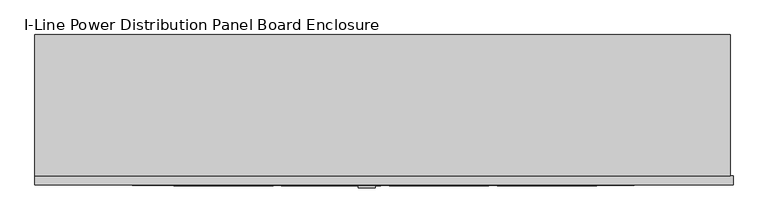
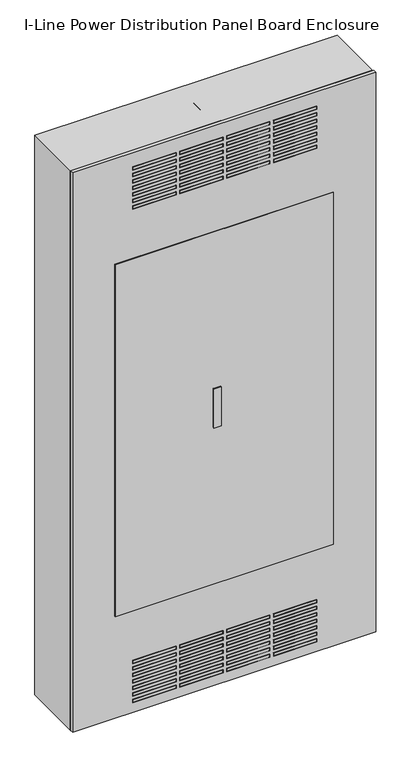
"""IFC4 building model written with IfcOpenShell, lengths in millimetres: proxy geometry, I-Line_Power_Distribution_Panel_Board_Enclosure_MDP-100_Config10_BIM_Model : I-Line Power Distribution Panel Board Enclosure."""

from ifc_helpers import new_model, si_unit, frame, origin, origin_with_axes, place, context, project, spatial, polyline, outline, extrude, source, transform, mapped, element, save


def i_line_power_distribution_panel_board_enclosure_5f4e2905(model_context):
    return source(origin(), model_context, "Body", "SweptSolid", [
        extrude(outline(polyline([(-559.0, 120.5), (556.5776372, 120.5), (556.5776372, -106.0), (-559.0, -106.0), (-559.0, 120.5)])), origin_with_axes(), (0.0, 0.0, 1.0), 2184.0),
        extrude(outline(polyline([(-13.504808, -125.5390217), (-40.1142303, -125.5390217), (-40.1142303, -120.5), (-13.504808, -120.5), (-13.504808, -125.5390217)])), frame((0.0, 0.0, 1008.4914951), z_axis=(0.0, 0.0, 1.0), x_axis=(1.0, 0.0, 0.0)), (0.0, 0.0, 1.0), 152.4),
        extrude(outline(polyline([(51.0438411, -176.9157639), (51.0438411, -336.572879), (38.3438396, -336.572879), (38.3438396, -176.9157639), (51.0438411, -176.9157639)]), holes=[polyline([(50.0438411, -177.9157639), (39.3438396, -177.9157639), (39.3438396, -335.572879), (50.0438411, -335.572879), (50.0438411, -177.9157639)])]), frame((0.0, -121.5073617, 0.0), z_axis=(0.0, 1.0, 0.0), x_axis=(0.0, 0.0, 1.0)), (0.0, 0.0, 1.0), 1.0073617),
        extrude(outline(polyline([(76.443835, -176.9157639), (76.443835, -336.572879), (63.7438335, -336.572879), (63.7438335, -176.9157639), (76.443835, -176.9157639)]), holes=[polyline([(75.443835, -177.9157639), (64.7438335, -177.9157639), (64.7438335, -335.572879), (75.443835, -335.572879), (75.443835, -177.9157639)])]), frame((0.0, -121.5073617, 0.0), z_axis=(0.0, 1.0, 0.0), x_axis=(0.0, 0.0, 1.0)), (0.0, 0.0, 1.0), 1.0073617),
        extrude(outline(polyline([(101.8438381, -176.9157639), (101.8438381, -336.572879), (89.1438366, -336.572879), (89.1438366, -176.9157639), (101.8438381, -176.9157639)]), holes=[polyline([(100.8438381, -177.9157639), (90.1438366, -177.9157639), (90.1438366, -335.572879), (100.8438381, -335.572879), (100.8438381, -177.9157639)])]), frame((0.0, -121.5073617, 0.0), z_axis=(0.0, 1.0, 0.0), x_axis=(0.0, 0.0, 1.0)), (0.0, 0.0, 1.0), 1.0073617),
        extrude(outline(polyline([(127.243832, -176.9157639), (127.243832, -336.572879), (114.5438305, -336.572879), (114.5438305, -176.9157639), (127.243832, -176.9157639)]), holes=[polyline([(126.243832, -177.9157639), (115.5438305, -177.9157639), (115.5438305, -335.572879), (126.243832, -335.572879), (126.243832, -177.9157639)])]), frame((0.0, -121.5073617, 0.0), z_axis=(0.0, 1.0, 0.0), x_axis=(0.0, 0.0, 1.0)), (0.0, 0.0, 1.0), 1.0073617),
        extrude(outline(polyline([(152.643835, -176.9157639), (152.643835, -336.572879), (139.9438335, -336.572879), (139.9438335, -176.9157639), (152.643835, -176.9157639)]), holes=[polyline([(151.643835, -177.9157639), (140.9438335, -177.9157639), (140.9438335, -335.572879), (151.643835, -335.572879), (151.643835, -177.9157639)])]), frame((0.0, -121.5073617, 0.0), z_axis=(0.0, 1.0, 0.0), x_axis=(0.0, 0.0, 1.0)), (0.0, 0.0, 1.0), 1.0073617),
        extrude(outline(polyline([(178.043829, -176.9157639), (178.043829, -336.572879), (165.3438275, -336.572879), (165.3438275, -176.9157639), (178.043829, -176.9157639)]), holes=[polyline([(177.043829, -177.9157639), (166.3438275, -177.9157639), (166.3438275, -335.572879), (177.043829, -335.572879), (177.043829, -177.9157639)])]), frame((0.0, -121.5073617, 0.0), z_axis=(0.0, 1.0, 0.0), x_axis=(0.0, 0.0, 1.0)), (0.0, 0.0, 1.0), 1.0073617),
        extrude(outline(polyline([(203.443832, -176.9157639), (203.443832, -336.572879), (190.7438305, -336.572879), (190.7438305, -176.9157639), (203.443832, -176.9157639)]), holes=[polyline([(202.443832, -177.9157639), (191.7438305, -177.9157639), (191.7438305, -335.572879), (202.443832, -335.572879), (202.443832, -177.9157639)])]), frame((0.0, -121.5073617, 0.0), z_axis=(0.0, 1.0, 0.0), x_axis=(0.0, 0.0, 1.0)), (0.0, 0.0, 1.0), 1.0073617),
        extrude(outline(polyline([(51.0438411, -3.9539375), (51.0438411, -163.6110527), (38.3438396, -163.6110527), (38.3438396, -3.9539375), (51.0438411, -3.9539375)]), holes=[polyline([(50.0438411, -4.9539375), (39.3438396, -4.9539375), (39.3438396, -162.6110527), (50.0438411, -162.6110527), (50.0438411, -4.9539375)])]), frame((0.0, -121.5073617, 0.0), z_axis=(0.0, 1.0, 0.0), x_axis=(0.0, 0.0, 1.0)), (0.0, 0.0, 1.0), 1.0073617),
        extrude(outline(polyline([(76.443835, -3.9539375), (76.443835, -163.6110527), (63.7438335, -163.6110527), (63.7438335, -3.9539375), (76.443835, -3.9539375)]), holes=[polyline([(75.443835, -4.9539375), (64.7438335, -4.9539375), (64.7438335, -162.6110527), (75.443835, -162.6110527), (75.443835, -4.9539375)])]), frame((0.0, -121.5073617, 0.0), z_axis=(0.0, 1.0, 0.0), x_axis=(0.0, 0.0, 1.0)), (0.0, 0.0, 1.0), 1.0073617),
        extrude(outline(polyline([(101.8438381, -3.9539375), (101.8438381, -163.6110527), (89.1438366, -163.6110527), (89.1438366, -3.9539375), (101.8438381, -3.9539375)]), holes=[polyline([(100.8438381, -4.9539375), (90.1438366, -4.9539375), (90.1438366, -162.6110527), (100.8438381, -162.6110527), (100.8438381, -4.9539375)])]), frame((0.0, -121.5073617, 0.0), z_axis=(0.0, 1.0, 0.0), x_axis=(0.0, 0.0, 1.0)), (0.0, 0.0, 1.0), 1.0073617),
        extrude(outline(polyline([(127.243832, -3.9539375), (127.243832, -163.6110527), (114.5438305, -163.6110527), (114.5438305, -3.9539375), (127.243832, -3.9539375)]), holes=[polyline([(126.243832, -4.9539375), (115.5438305, -4.9539375), (115.5438305, -162.6110527), (126.243832, -162.6110527), (126.243832, -4.9539375)])]), frame((0.0, -121.5073617, 0.0), z_axis=(0.0, 1.0, 0.0), x_axis=(0.0, 0.0, 1.0)), (0.0, 0.0, 1.0), 1.0073617),
        extrude(outline(polyline([(152.643835, -3.9539375), (152.643835, -163.6110527), (139.9438335, -163.6110527), (139.9438335, -3.9539375), (152.643835, -3.9539375)]), holes=[polyline([(151.643835, -4.9539375), (140.9438335, -4.9539375), (140.9438335, -162.6110527), (151.643835, -162.6110527), (151.643835, -4.9539375)])]), frame((0.0, -121.5073617, 0.0), z_axis=(0.0, 1.0, 0.0), x_axis=(0.0, 0.0, 1.0)), (0.0, 0.0, 1.0), 1.0073617),
        extrude(outline(polyline([(178.043829, -3.9539375), (178.043829, -163.6110527), (165.3438275, -163.6110527), (165.3438275, -3.9539375), (178.043829, -3.9539375)]), holes=[polyline([(177.043829, -4.9539375), (166.3438275, -4.9539375), (166.3438275, -162.6110527), (177.043829, -162.6110527), (177.043829, -4.9539375)])]), frame((0.0, -121.5073617, 0.0), z_axis=(0.0, 1.0, 0.0), x_axis=(0.0, 0.0, 1.0)), (0.0, 0.0, 1.0), 1.0073617),
        extrude(outline(polyline([(203.443832, -3.9539375), (203.443832, -163.6110527), (190.7438305, -163.6110527), (190.7438305, -3.9539375), (203.443832, -3.9539375)]), holes=[polyline([(202.443832, -4.9539375), (191.7438305, -4.9539375), (191.7438305, -162.6110527), (202.443832, -162.6110527), (202.443832, -4.9539375)])]), frame((0.0, -121.5073617, 0.0), z_axis=(0.0, 1.0, 0.0), x_axis=(0.0, 0.0, 1.0)), (0.0, 0.0, 1.0), 1.0073617),
        extrude(outline(polyline([(51.0438411, 169.0078888), (51.0438411, 9.3507736), (38.3438396, 9.3507736), (38.3438396, 169.0078888), (51.0438411, 169.0078888)]), holes=[polyline([(50.0438411, 168.0078888), (39.3438396, 168.0078888), (39.3438396, 10.3507736), (50.0438411, 10.3507736), (50.0438411, 168.0078888)])]), frame((0.0, -121.5073617, 0.0), z_axis=(0.0, 1.0, 0.0), x_axis=(0.0, 0.0, 1.0)), (0.0, 0.0, 1.0), 1.0073617),
        extrude(outline(polyline([(76.443835, 169.0078888), (76.443835, 9.3507736), (63.7438335, 9.3507736), (63.7438335, 169.0078888), (76.443835, 169.0078888)]), holes=[polyline([(75.443835, 168.0078888), (64.7438335, 168.0078888), (64.7438335, 10.3507736), (75.443835, 10.3507736), (75.443835, 168.0078888)])]), frame((0.0, -121.5073617, 0.0), z_axis=(0.0, 1.0, 0.0), x_axis=(0.0, 0.0, 1.0)), (0.0, 0.0, 1.0), 1.0073617),
        extrude(outline(polyline([(101.8438381, 169.0078888), (101.8438381, 9.3507736), (89.1438366, 9.3507736), (89.1438366, 169.0078888), (101.8438381, 169.0078888)]), holes=[polyline([(100.8438381, 168.0078888), (90.1438366, 168.0078888), (90.1438366, 10.3507736), (100.8438381, 10.3507736), (100.8438381, 168.0078888)])]), frame((0.0, -121.5073617, 0.0), z_axis=(0.0, 1.0, 0.0), x_axis=(0.0, 0.0, 1.0)), (0.0, 0.0, 1.0), 1.0073617),
        extrude(outline(polyline([(127.243832, 169.0078888), (127.243832, 9.3507736), (114.5438305, 9.3507736), (114.5438305, 169.0078888), (127.243832, 169.0078888)]), holes=[polyline([(126.243832, 168.0078888), (115.5438305, 168.0078888), (115.5438305, 10.3507736), (126.243832, 10.3507736), (126.243832, 168.0078888)])]), frame((0.0, -121.5073617, 0.0), z_axis=(0.0, 1.0, 0.0), x_axis=(0.0, 0.0, 1.0)), (0.0, 0.0, 1.0), 1.0073617),
        extrude(outline(polyline([(152.643835, 169.0078888), (152.643835, 9.3507736), (139.9438335, 9.3507736), (139.9438335, 169.0078888), (152.643835, 169.0078888)]), holes=[polyline([(151.643835, 168.0078888), (140.9438335, 168.0078888), (140.9438335, 10.3507736), (151.643835, 10.3507736), (151.643835, 168.0078888)])]), frame((0.0, -121.5073617, 0.0), z_axis=(0.0, 1.0, 0.0), x_axis=(0.0, 0.0, 1.0)), (0.0, 0.0, 1.0), 1.0073617),
        extrude(outline(polyline([(178.043829, 169.0078888), (178.043829, 9.3507736), (165.3438275, 9.3507736), (165.3438275, 169.0078888), (178.043829, 169.0078888)]), holes=[polyline([(177.043829, 168.0078888), (166.3438275, 168.0078888), (166.3438275, 10.3507736), (177.043829, 10.3507736), (177.043829, 168.0078888)])]), frame((0.0, -121.5073617, 0.0), z_axis=(0.0, 1.0, 0.0), x_axis=(0.0, 0.0, 1.0)), (0.0, 0.0, 1.0), 1.0073617),
        extrude(outline(polyline([(203.443832, 169.0078888), (203.443832, 9.3507736), (190.7438305, 9.3507736), (190.7438305, 169.0078888), (203.443832, 169.0078888)]), holes=[polyline([(202.443832, 168.0078888), (191.7438305, 168.0078888), (191.7438305, 10.3507736), (202.443832, 10.3507736), (202.443832, 168.0078888)])]), frame((0.0, -121.5073617, 0.0), z_axis=(0.0, 1.0, 0.0), x_axis=(0.0, 0.0, 1.0)), (0.0, 0.0, 1.0), 1.0073617),
        extrude(outline(polyline([(51.0438411, 341.9697151), (51.0438411, 182.3125999), (38.3438396, 182.3125999), (38.3438396, 341.9697151), (51.0438411, 341.9697151)]), holes=[polyline([(50.0438411, 340.9697151), (39.3438396, 340.9697151), (39.3438396, 183.3125999), (50.0438411, 183.3125999), (50.0438411, 340.9697151)])]), frame((0.0, -121.5073617, 0.0), z_axis=(0.0, 1.0, 0.0), x_axis=(0.0, 0.0, 1.0)), (0.0, 0.0, 1.0), 1.0073617),
        extrude(outline(polyline([(76.443835, 341.9697151), (76.443835, 182.3125999), (63.7438335, 182.3125999), (63.7438335, 341.9697151), (76.443835, 341.9697151)]), holes=[polyline([(75.443835, 340.9697151), (64.7438335, 340.9697151), (64.7438335, 183.3125999), (75.443835, 183.3125999), (75.443835, 340.9697151)])]), frame((0.0, -121.5073617, 0.0), z_axis=(0.0, 1.0, 0.0), x_axis=(0.0, 0.0, 1.0)), (0.0, 0.0, 1.0), 1.0073617),
        extrude(outline(polyline([(101.8438381, 341.9697151), (101.8438381, 182.3125999), (89.1438366, 182.3125999), (89.1438366, 341.9697151), (101.8438381, 341.9697151)]), holes=[polyline([(100.8438381, 340.9697151), (90.1438366, 340.9697151), (90.1438366, 183.3125999), (100.8438381, 183.3125999), (100.8438381, 340.9697151)])]), frame((0.0, -121.5073617, 0.0), z_axis=(0.0, 1.0, 0.0), x_axis=(0.0, 0.0, 1.0)), (0.0, 0.0, 1.0), 1.0073617),
        extrude(outline(polyline([(127.243832, 341.9697151), (127.243832, 182.3125999), (114.5438305, 182.3125999), (114.5438305, 341.9697151), (127.243832, 341.9697151)]), holes=[polyline([(126.243832, 340.9697151), (115.5438305, 340.9697151), (115.5438305, 183.3125999), (126.243832, 183.3125999), (126.243832, 340.9697151)])]), frame((0.0, -121.5073617, 0.0), z_axis=(0.0, 1.0, 0.0), x_axis=(0.0, 0.0, 1.0)), (0.0, 0.0, 1.0), 1.0073617),
        extrude(outline(polyline([(152.643835, 341.9697151), (152.643835, 182.3125999), (139.9438335, 182.3125999), (139.9438335, 341.9697151), (152.643835, 341.9697151)]), holes=[polyline([(151.643835, 340.9697151), (140.9438335, 340.9697151), (140.9438335, 183.3125999), (151.643835, 183.3125999), (151.643835, 340.9697151)])]), frame((0.0, -121.5073617, 0.0), z_axis=(0.0, 1.0, 0.0), x_axis=(0.0, 0.0, 1.0)), (0.0, 0.0, 1.0), 1.0073617),
        extrude(outline(polyline([(178.043829, 341.9697151), (178.043829, 182.3125999), (165.3438275, 182.3125999), (165.3438275, 341.9697151), (178.043829, 341.9697151)]), holes=[polyline([(177.043829, 340.9697151), (166.3438275, 340.9697151), (166.3438275, 183.3125999), (177.043829, 183.3125999), (177.043829, 340.9697151)])]), frame((0.0, -121.5073617, 0.0), z_axis=(0.0, 1.0, 0.0), x_axis=(0.0, 0.0, 1.0)), (0.0, 0.0, 1.0), 1.0073617),
        extrude(outline(polyline([(203.443832, 341.9697151), (203.443832, 182.3125999), (190.7438305, 182.3125999), (190.7438305, 341.9697151), (203.443832, 341.9697151)]), holes=[polyline([(202.443832, 340.9697151), (191.7438305, 340.9697151), (191.7438305, 183.3125999), (202.443832, 183.3125999), (202.443832, 340.9697151)])]), frame((0.0, -121.5073617, 0.0), z_axis=(0.0, 1.0, 0.0), x_axis=(0.0, 0.0, 1.0)), (0.0, 0.0, 1.0), 1.0073617),
        extrude(outline(polyline([(1977.165299, -176.9157639), (1977.165299, -336.572879), (1964.4652974, -336.572879), (1964.4652974, -176.9157639), (1977.165299, -176.9157639)]), holes=[polyline([(1976.165299, -177.9157639), (1965.4652974, -177.9157639), (1965.4652974, -335.572879), (1976.165299, -335.572879), (1976.165299, -177.9157639)])]), frame((0.0, -121.5073617, 0.0), z_axis=(0.0, 1.0, 0.0), x_axis=(0.0, 0.0, 1.0)), (0.0, 0.0, 1.0), 1.0073617),
        extrude(outline(polyline([(2002.5652929, -176.9157639), (2002.5652929, -336.572879), (1989.8652914, -336.572879), (1989.8652914, -176.9157639), (2002.5652929, -176.9157639)]), holes=[polyline([(2001.5652929, -177.9157639), (1990.8652914, -177.9157639), (1990.8652914, -335.572879), (2001.5652929, -335.572879), (2001.5652929, -177.9157639)])]), frame((0.0, -121.5073617, 0.0), z_axis=(0.0, 1.0, 0.0), x_axis=(0.0, 0.0, 1.0)), (0.0, 0.0, 1.0), 1.0073617),
        extrude(outline(polyline([(2027.9652959, -176.9157639), (2027.9652959, -336.572879), (2015.2652944, -336.572879), (2015.2652944, -176.9157639), (2027.9652959, -176.9157639)]), holes=[polyline([(2026.9652959, -177.9157639), (2016.2652944, -177.9157639), (2016.2652944, -335.572879), (2026.9652959, -335.572879), (2026.9652959, -177.9157639)])]), frame((0.0, -121.5073617, 0.0), z_axis=(0.0, 1.0, 0.0), x_axis=(0.0, 0.0, 1.0)), (0.0, 0.0, 1.0), 1.0073617),
        extrude(outline(polyline([(2053.3652899, -176.9157639), (2053.3652899, -336.572879), (2040.6652884, -336.572879), (2040.6652884, -176.9157639), (2053.3652899, -176.9157639)]), holes=[polyline([(2052.3652899, -177.9157639), (2041.6652884, -177.9157639), (2041.6652884, -335.572879), (2052.3652899, -335.572879), (2052.3652899, -177.9157639)])]), frame((0.0, -121.5073617, 0.0), z_axis=(0.0, 1.0, 0.0), x_axis=(0.0, 0.0, 1.0)), (0.0, 0.0, 1.0), 1.0073617),
        extrude(outline(polyline([(2078.7652929, -176.9157639), (2078.7652929, -336.572879), (2066.0652914, -336.572879), (2066.0652914, -176.9157639), (2078.7652929, -176.9157639)]), holes=[polyline([(2077.7652929, -177.9157639), (2067.0652914, -177.9157639), (2067.0652914, -335.572879), (2077.7652929, -335.572879), (2077.7652929, -177.9157639)])]), frame((0.0, -121.5073617, 0.0), z_axis=(0.0, 1.0, 0.0), x_axis=(0.0, 0.0, 1.0)), (0.0, 0.0, 1.0), 1.0073617),
        extrude(outline(polyline([(2104.1652869, -176.9157639), (2104.1652869, -336.572879), (2091.4652853, -336.572879), (2091.4652853, -176.9157639), (2104.1652869, -176.9157639)]), holes=[polyline([(2103.1652869, -177.9157639), (2092.4652853, -177.9157639), (2092.4652853, -335.572879), (2103.1652869, -335.572879), (2103.1652869, -177.9157639)])]), frame((0.0, -121.5073617, 0.0), z_axis=(0.0, 1.0, 0.0), x_axis=(0.0, 0.0, 1.0)), (0.0, 0.0, 1.0), 1.0073617),
        extrude(outline(polyline([(2129.5652899, -176.9157639), (2129.5652899, -336.572879), (2116.8652884, -336.572879), (2116.8652884, -176.9157639), (2129.5652899, -176.9157639)]), holes=[polyline([(2128.5652899, -177.9157639), (2117.8652884, -177.9157639), (2117.8652884, -335.572879), (2128.5652899, -335.572879), (2128.5652899, -177.9157639)])]), frame((0.0, -121.5073617, 0.0), z_axis=(0.0, 1.0, 0.0), x_axis=(0.0, 0.0, 1.0)), (0.0, 0.0, 1.0), 1.0073617),
        extrude(outline(polyline([(1977.165299, -3.9539375), (1977.165299, -163.6110527), (1964.4652974, -163.6110527), (1964.4652974, -3.9539375), (1977.165299, -3.9539375)]), holes=[polyline([(1976.165299, -4.9539375), (1965.4652974, -4.9539375), (1965.4652974, -162.6110527), (1976.165299, -162.6110527), (1976.165299, -4.9539375)])]), frame((0.0, -121.5073617, 0.0), z_axis=(0.0, 1.0, 0.0), x_axis=(0.0, 0.0, 1.0)), (0.0, 0.0, 1.0), 1.0073617),
        extrude(outline(polyline([(2002.5652929, -3.9539375), (2002.5652929, -163.6110527), (1989.8652914, -163.6110527), (1989.8652914, -3.9539375), (2002.5652929, -3.9539375)]), holes=[polyline([(2001.5652929, -4.9539375), (1990.8652914, -4.9539375), (1990.8652914, -162.6110527), (2001.5652929, -162.6110527), (2001.5652929, -4.9539375)])]), frame((0.0, -121.5073617, 0.0), z_axis=(0.0, 1.0, 0.0), x_axis=(0.0, 0.0, 1.0)), (0.0, 0.0, 1.0), 1.0073617),
        extrude(outline(polyline([(2027.9652959, -3.9539375), (2027.9652959, -163.6110527), (2015.2652944, -163.6110527), (2015.2652944, -3.9539375), (2027.9652959, -3.9539375)]), holes=[polyline([(2026.9652959, -4.9539375), (2016.2652944, -4.9539375), (2016.2652944, -162.6110527), (2026.9652959, -162.6110527), (2026.9652959, -4.9539375)])]), frame((0.0, -121.5073617, 0.0), z_axis=(0.0, 1.0, 0.0), x_axis=(0.0, 0.0, 1.0)), (0.0, 0.0, 1.0), 1.0073617),
        extrude(outline(polyline([(2053.3652899, -3.9539375), (2053.3652899, -163.6110527), (2040.6652884, -163.6110527), (2040.6652884, -3.9539375), (2053.3652899, -3.9539375)]), holes=[polyline([(2052.3652899, -4.9539375), (2041.6652884, -4.9539375), (2041.6652884, -162.6110527), (2052.3652899, -162.6110527), (2052.3652899, -4.9539375)])]), frame((0.0, -121.5073617, 0.0), z_axis=(0.0, 1.0, 0.0), x_axis=(0.0, 0.0, 1.0)), (0.0, 0.0, 1.0), 1.0073617),
        extrude(outline(polyline([(2078.7652929, -3.9539375), (2078.7652929, -163.6110527), (2066.0652914, -163.6110527), (2066.0652914, -3.9539375), (2078.7652929, -3.9539375)]), holes=[polyline([(2077.7652929, -4.9539375), (2067.0652914, -4.9539375), (2067.0652914, -162.6110527), (2077.7652929, -162.6110527), (2077.7652929, -4.9539375)])]), frame((0.0, -121.5073617, 0.0), z_axis=(0.0, 1.0, 0.0), x_axis=(0.0, 0.0, 1.0)), (0.0, 0.0, 1.0), 1.0073617),
        extrude(outline(polyline([(2104.1652869, -3.9539375), (2104.1652869, -163.6110527), (2091.4652853, -163.6110527), (2091.4652853, -3.9539375), (2104.1652869, -3.9539375)]), holes=[polyline([(2103.1652869, -4.9539375), (2092.4652853, -4.9539375), (2092.4652853, -162.6110527), (2103.1652869, -162.6110527), (2103.1652869, -4.9539375)])]), frame((0.0, -121.5073617, 0.0), z_axis=(0.0, 1.0, 0.0), x_axis=(0.0, 0.0, 1.0)), (0.0, 0.0, 1.0), 1.0073617),
        extrude(outline(polyline([(2129.5652899, -3.9539375), (2129.5652899, -163.6110527), (2116.8652884, -163.6110527), (2116.8652884, -3.9539375), (2129.5652899, -3.9539375)]), holes=[polyline([(2128.5652899, -4.9539375), (2117.8652884, -4.9539375), (2117.8652884, -162.6110527), (2128.5652899, -162.6110527), (2128.5652899, -4.9539375)])]), frame((0.0, -121.5073617, 0.0), z_axis=(0.0, 1.0, 0.0), x_axis=(0.0, 0.0, 1.0)), (0.0, 0.0, 1.0), 1.0073617),
        extrude(outline(polyline([(1977.165299, 169.0078888), (1977.165299, 9.3507736), (1964.4652974, 9.3507736), (1964.4652974, 169.0078888), (1977.165299, 169.0078888)]), holes=[polyline([(1976.165299, 168.0078888), (1965.4652974, 168.0078888), (1965.4652974, 10.3507736), (1976.165299, 10.3507736), (1976.165299, 168.0078888)])]), frame((0.0, -121.5073617, 0.0), z_axis=(0.0, 1.0, 0.0), x_axis=(0.0, 0.0, 1.0)), (0.0, 0.0, 1.0), 1.0073617),
        extrude(outline(polyline([(2002.5652929, 169.0078888), (2002.5652929, 9.3507736), (1989.8652914, 9.3507736), (1989.8652914, 169.0078888), (2002.5652929, 169.0078888)]), holes=[polyline([(2001.5652929, 168.0078888), (1990.8652914, 168.0078888), (1990.8652914, 10.3507736), (2001.5652929, 10.3507736), (2001.5652929, 168.0078888)])]), frame((0.0, -121.5073617, 0.0), z_axis=(0.0, 1.0, 0.0), x_axis=(0.0, 0.0, 1.0)), (0.0, 0.0, 1.0), 1.0073617),
        extrude(outline(polyline([(2027.9652959, 169.0078888), (2027.9652959, 9.3507736), (2015.2652944, 9.3507736), (2015.2652944, 169.0078888), (2027.9652959, 169.0078888)]), holes=[polyline([(2026.9652959, 168.0078888), (2016.2652944, 168.0078888), (2016.2652944, 10.3507736), (2026.9652959, 10.3507736), (2026.9652959, 168.0078888)])]), frame((0.0, -121.5073617, 0.0), z_axis=(0.0, 1.0, 0.0), x_axis=(0.0, 0.0, 1.0)), (0.0, 0.0, 1.0), 1.0073617),
        extrude(outline(polyline([(2053.3652899, 169.0078888), (2053.3652899, 9.3507736), (2040.6652884, 9.3507736), (2040.6652884, 169.0078888), (2053.3652899, 169.0078888)]), holes=[polyline([(2052.3652899, 168.0078888), (2041.6652884, 168.0078888), (2041.6652884, 10.3507736), (2052.3652899, 10.3507736), (2052.3652899, 168.0078888)])]), frame((0.0, -121.5073617, 0.0), z_axis=(0.0, 1.0, 0.0), x_axis=(0.0, 0.0, 1.0)), (0.0, 0.0, 1.0), 1.0073617),
        extrude(outline(polyline([(2078.7652929, 169.0078888), (2078.7652929, 9.3507736), (2066.0652914, 9.3507736), (2066.0652914, 169.0078888), (2078.7652929, 169.0078888)]), holes=[polyline([(2077.7652929, 168.0078888), (2067.0652914, 168.0078888), (2067.0652914, 10.3507736), (2077.7652929, 10.3507736), (2077.7652929, 168.0078888)])]), frame((0.0, -121.5073617, 0.0), z_axis=(0.0, 1.0, 0.0), x_axis=(0.0, 0.0, 1.0)), (0.0, 0.0, 1.0), 1.0073617),
        extrude(outline(polyline([(2104.1652869, 169.0078888), (2104.1652869, 9.3507736), (2091.4652853, 9.3507736), (2091.4652853, 169.0078888), (2104.1652869, 169.0078888)]), holes=[polyline([(2103.1652869, 168.0078888), (2092.4652853, 168.0078888), (2092.4652853, 10.3507736), (2103.1652869, 10.3507736), (2103.1652869, 168.0078888)])]), frame((0.0, -121.5073617, 0.0), z_axis=(0.0, 1.0, 0.0), x_axis=(0.0, 0.0, 1.0)), (0.0, 0.0, 1.0), 1.0073617),
        extrude(outline(polyline([(2129.5652899, 169.0078888), (2129.5652899, 9.3507736), (2116.8652884, 9.3507736), (2116.8652884, 169.0078888), (2129.5652899, 169.0078888)]), holes=[polyline([(2128.5652899, 168.0078888), (2117.8652884, 168.0078888), (2117.8652884, 10.3507736), (2128.5652899, 10.3507736), (2128.5652899, 168.0078888)])]), frame((0.0, -121.5073617, 0.0), z_axis=(0.0, 1.0, 0.0), x_axis=(0.0, 0.0, 1.0)), (0.0, 0.0, 1.0), 1.0073617),
        extrude(outline(polyline([(1977.165299, 341.9697151), (1977.165299, 182.3125999), (1964.4652974, 182.3125999), (1964.4652974, 341.9697151), (1977.165299, 341.9697151)]), holes=[polyline([(1976.165299, 340.9697151), (1965.4652974, 340.9697151), (1965.4652974, 183.3125999), (1976.165299, 183.3125999), (1976.165299, 340.9697151)])]), frame((0.0, -121.5073617, 0.0), z_axis=(0.0, 1.0, 0.0), x_axis=(0.0, 0.0, 1.0)), (0.0, 0.0, 1.0), 1.0073617),
        extrude(outline(polyline([(2002.5652929, 341.9697151), (2002.5652929, 182.3125999), (1989.8652914, 182.3125999), (1989.8652914, 341.9697151), (2002.5652929, 341.9697151)]), holes=[polyline([(2001.5652929, 340.9697151), (1990.8652914, 340.9697151), (1990.8652914, 183.3125999), (2001.5652929, 183.3125999), (2001.5652929, 340.9697151)])]), frame((0.0, -121.5073617, 0.0), z_axis=(0.0, 1.0, 0.0), x_axis=(0.0, 0.0, 1.0)), (0.0, 0.0, 1.0), 1.0073617),
        extrude(outline(polyline([(2027.9652959, 341.9697151), (2027.9652959, 182.3125999), (2015.2652944, 182.3125999), (2015.2652944, 341.9697151), (2027.9652959, 341.9697151)]), holes=[polyline([(2026.9652959, 340.9697151), (2016.2652944, 340.9697151), (2016.2652944, 183.3125999), (2026.9652959, 183.3125999), (2026.9652959, 340.9697151)])]), frame((0.0, -121.5073617, 0.0), z_axis=(0.0, 1.0, 0.0), x_axis=(0.0, 0.0, 1.0)), (0.0, 0.0, 1.0), 1.0073617),
        extrude(outline(polyline([(2053.3652899, 341.9697151), (2053.3652899, 182.3125999), (2040.6652884, 182.3125999), (2040.6652884, 341.9697151), (2053.3652899, 341.9697151)]), holes=[polyline([(2052.3652899, 340.9697151), (2041.6652884, 340.9697151), (2041.6652884, 183.3125999), (2052.3652899, 183.3125999), (2052.3652899, 340.9697151)])]), frame((0.0, -121.5073617, 0.0), z_axis=(0.0, 1.0, 0.0), x_axis=(0.0, 0.0, 1.0)), (0.0, 0.0, 1.0), 1.0073617),
        extrude(outline(polyline([(2078.7652929, 341.9697151), (2078.7652929, 182.3125999), (2066.0652914, 182.3125999), (2066.0652914, 341.9697151), (2078.7652929, 341.9697151)]), holes=[polyline([(2077.7652929, 340.9697151), (2067.0652914, 340.9697151), (2067.0652914, 183.3125999), (2077.7652929, 183.3125999), (2077.7652929, 340.9697151)])]), frame((0.0, -121.5073617, 0.0), z_axis=(0.0, 1.0, 0.0), x_axis=(0.0, 0.0, 1.0)), (0.0, 0.0, 1.0), 1.0073617),
        extrude(outline(polyline([(2104.1652869, 341.9697151), (2104.1652869, 182.3125999), (2091.4652853, 182.3125999), (2091.4652853, 341.9697151), (2104.1652869, 341.9697151)]), holes=[polyline([(2103.1652869, 340.9697151), (2092.4652853, 340.9697151), (2092.4652853, 183.3125999), (2103.1652869, 183.3125999), (2103.1652869, 340.9697151)])]), frame((0.0, -121.5073617, 0.0), z_axis=(0.0, 1.0, 0.0), x_axis=(0.0, 0.0, 1.0)), (0.0, 0.0, 1.0), 1.0073617),
        extrude(outline(polyline([(2129.5652899, 341.9697151), (2129.5652899, 182.3125999), (2116.8652884, 182.3125999), (2116.8652884, 341.9697151), (2129.5652899, 341.9697151)]), holes=[polyline([(2128.5652899, 340.9697151), (2117.8652884, 340.9697151), (2117.8652884, 183.3125999), (2128.5652899, 183.3125999), (2128.5652899, 340.9697151)])]), frame((0.0, -121.5073617, 0.0), z_axis=(0.0, 1.0, 0.0), x_axis=(0.0, 0.0, 1.0)), (0.0, 0.0, 1.0), 1.0073617),
        extrude(outline(polyline([(29.9355959, 20.4466569), (29.9355959, -19.5533431), (-30.0644041, -19.5533431), (-30.0644041, 20.4466569), (29.9355959, 20.4466569)])), frame((0.0, 0.0, 2182.0), z_axis=(0.0, 0.0, 1.0), x_axis=(1.0, 0.0, 0.0)), (0.0, 0.0, 1.0), 2.0),
        extrude(outline(polyline([(2184.0, 560.8154243), (2184.0, -559.0), (0.0, -559.0), (0.0, 560.8154243), (2184.0, 560.8154243)]), holes=[polyline([(1771.6755435, -1.0), (397.7075558, -1.0), (397.7075558, -402.6601242), (1771.6755435, -402.6601242), (1771.6755435, -1.0)]), polyline([(1771.6755435, 1.0), (1771.6755435, 402.2602211), (397.7075558, 402.2602211), (397.7075558, 1.0), (1771.6755435, 1.0)])]), frame((0.0, -120.5, 0.0), z_axis=(0.0, 1.0, 0.0), x_axis=(0.0, 0.0, 1.0)), (0.0, 0.0, 1.0), 14.5),
        extrude(outline(polyline([(402.2602211, -121.5243654), (-402.6601242, -121.5243654), (-402.6601242, -120.5), (402.2602211, -120.5), (402.2602211, -121.5243654)])), frame((0.0, 0.0, 397.7075558), z_axis=(0.0, 0.0, 1.0), x_axis=(1.0, 0.0, 0.0)), (0.0, 0.0, 1.0), 1373.9679877),
    ])


if __name__ == "__main__":
    model = new_model("IFC4")
    model_context = context("Model", 3, world=origin())
    ifc_project = project(units=[si_unit("LENGTHUNIT", "METRE", prefix="MILLI")], contexts=[model_context])
    site = spatial("IfcSite", under=ifc_project)
    building = spatial("IfcBuilding", under=site)
    placement = place(None, origin())
    i_line_power_distribution_panel_board_enclosure_shape = i_line_power_distribution_panel_board_enclosure_5f4e2905(model_context)
    element("IfcBuildingElementProxy", 1, Name="I-Line_Power_Distribution_Panel_Board_Enclosure_MDP-100_Config10_BIM_Model : I-Line Power Distribution Panel Board Enclosure", ObjectType="I-Line_Power_Distribution_Panel_Board_Enclosure_MDP-100_Config10_BIM_Model : I-Line Power Distribution Panel Board Enclosure", at=placement, inside=building, context=model_context, shape_type="MappedRepresentation", body=[
        mapped(i_line_power_distribution_panel_board_enclosure_shape, transform((0.0, 0.0, 0.0), x_axis=(1.0, 0.0, 0.0), y_axis=(0.0, 1.0, 0.0), z_axis=(0.0, 0.0, 1.0))),
    ])
    save(model, "model.ifc")
